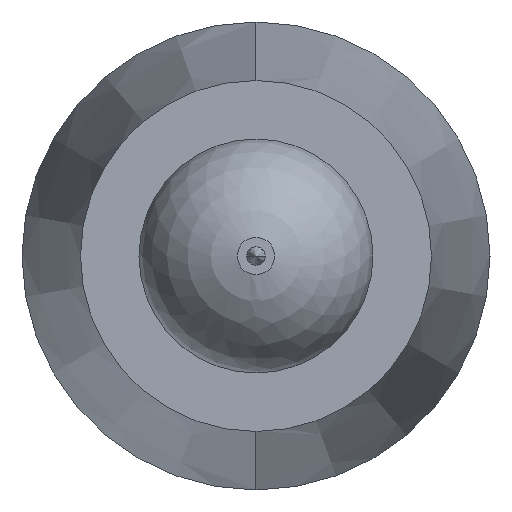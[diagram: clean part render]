
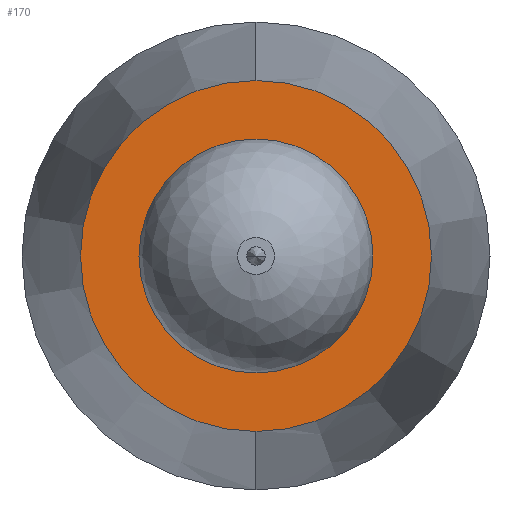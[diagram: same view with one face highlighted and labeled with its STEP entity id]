
A CAD part, left-side view. The second image highlights one B-rep face of the part: STEP entity #170.
In plain terms, the highlighted planar face has unit normal (-1, 0, 0).
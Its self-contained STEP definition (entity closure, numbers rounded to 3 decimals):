
#108 = ORIENTED_EDGE ( 'NONE', *, *, #874, .F. ) ;
#115 = EDGE_LOOP ( 'NONE', ( #1451, #1436 ) ) ;
#133 = AXIS2_PLACEMENT_3D ( 'NONE', #1348, #1349, #1350 ) ;
#158 = CIRCLE ( 'NONE', #133, 0.75 ) ;
#170 = ADVANCED_FACE ( 'NONE', ( #282, #283 ), #284, .T. ) ;
#277 = CARTESIAN_POINT ( 'NONE',  ( 0., 0., 0. ) ) ;
#282 = FACE_OUTER_BOUND ( 'NONE', #115, .T. ) ;
#283 = FACE_BOUND ( 'NONE', #374, .T. ) ;
#284 = PLANE ( 'NONE',  #520 ) ;
#286 = DIRECTION ( 'NONE',  ( -1., 0., 0. ) ) ;
#287 = DIRECTION ( 'NONE',  ( 0., 0., 1. ) ) ;
#374 = EDGE_LOOP ( 'NONE', ( #108, #1454 ) ) ;
#520 = AXIS2_PLACEMENT_3D ( 'NONE', #277, #286, #287 ) ;
#534 = AXIS2_PLACEMENT_3D ( 'NONE', #1172, #1173, #1174 ) ;
#537 = CIRCLE ( 'NONE', #565, 0.75 ) ;
#563 = CIRCLE ( 'NONE', #569, 0.5 ) ;
#564 = CIRCLE ( 'NONE', #534, 0.5 ) ;
#565 = AXIS2_PLACEMENT_3D ( 'NONE', #1158, #1159, #1160 ) ;
#569 = AXIS2_PLACEMENT_3D ( 'NONE', #1167, #1168, #1169 ) ;
#870 = EDGE_CURVE ( 'NONE', #1643, #1442, #537, .T. ) ;
#873 = EDGE_CURVE ( 'NONE', #1615, #1619, #563, .T. ) ;
#874 = EDGE_CURVE ( 'NONE', #1619, #1615, #564, .T. ) ;
#972 = EDGE_CURVE ( 'NONE', #1442, #1643, #158, .T. ) ;
#1158 = CARTESIAN_POINT ( 'NONE',  ( 0., 0., 0. ) ) ;
#1159 = DIRECTION ( 'NONE',  ( -1., 0., 0. ) ) ;
#1160 = DIRECTION ( 'NONE',  ( 0., 0., 1. ) ) ;
#1167 = CARTESIAN_POINT ( 'NONE',  ( 0., 0., 0. ) ) ;
#1168 = DIRECTION ( 'NONE',  ( -1., 0., 0. ) ) ;
#1169 = DIRECTION ( 'NONE',  ( 0., 0., 1. ) ) ;
#1172 = CARTESIAN_POINT ( 'NONE',  ( 0., 0., 0. ) ) ;
#1173 = DIRECTION ( 'NONE',  ( -1., 0., 0. ) ) ;
#1174 = DIRECTION ( 'NONE',  ( 0., 0., 1. ) ) ;
#1348 = CARTESIAN_POINT ( 'NONE',  ( 0., 0., 0. ) ) ;
#1349 = DIRECTION ( 'NONE',  ( -1., 0., 0. ) ) ;
#1350 = DIRECTION ( 'NONE',  ( 0., 0., 1. ) ) ;
#1379 = CARTESIAN_POINT ( 'NONE',  ( 0., 0., 0.75 ) ) ;
#1436 = ORIENTED_EDGE ( 'NONE', *, *, #972, .T. ) ;
#1442 = VERTEX_POINT ( 'NONE', #1379 ) ;
#1451 = ORIENTED_EDGE ( 'NONE', *, *, #870, .T. ) ;
#1454 = ORIENTED_EDGE ( 'NONE', *, *, #873, .F. ) ;
#1615 = VERTEX_POINT ( 'NONE', #1781 ) ;
#1619 = VERTEX_POINT ( 'NONE', #1785 ) ;
#1643 = VERTEX_POINT ( 'NONE', #1802 ) ;
#1781 = CARTESIAN_POINT ( 'NONE',  ( 0., 0., -0.5 ) ) ;
#1785 = CARTESIAN_POINT ( 'NONE',  ( 0., 0., 0.5 ) ) ;
#1802 = CARTESIAN_POINT ( 'NONE',  ( 0., 0., -0.75 ) ) ;
